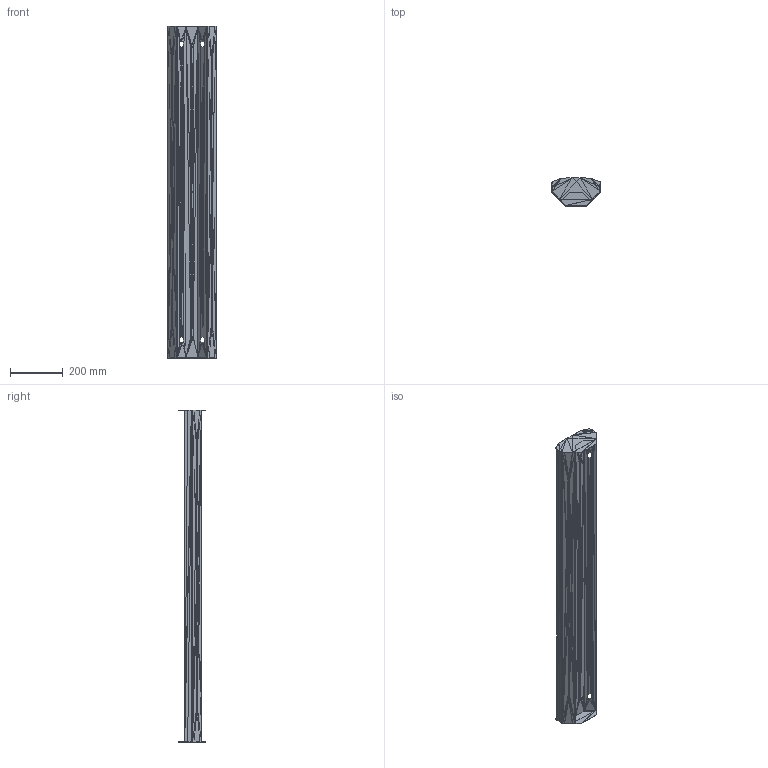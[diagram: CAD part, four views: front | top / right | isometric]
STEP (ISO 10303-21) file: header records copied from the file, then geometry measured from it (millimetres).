
FILE_DESCRIPTION((''),'2;1');
FILE_NAME('053418', '2026-07-10T08:03:57', (''), (''), 'ImageToStl.com STEP Converter','', '');
FILE_SCHEMA(('AUTOMOTIVE_DESIGN_CC2'));
Length unit declared in the file: metre
Products named in the file (1): product0
Bounding box: 184.42 x 105.8 x 1260 mm (x, y, z)
Surface area: 810719.8 mm2 (no closed solid volume)
Topology: 0 solids, 1586 shells, 1586 faces, 4758 edges, 797 vertices
Faces by surface type: plane 1586
Entity records: 36514 total; most frequent: DIRECTION 7932, ORIENTED_EDGE 4758, EDGE_CURVE 4758, LINE 4758, VECTOR 4758, AXIS2_PLACEMENT_3D 1587, FACE_SURFACE 1586, PLANE 1586
